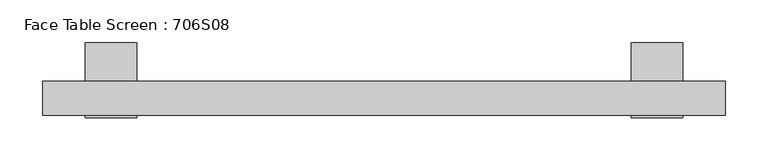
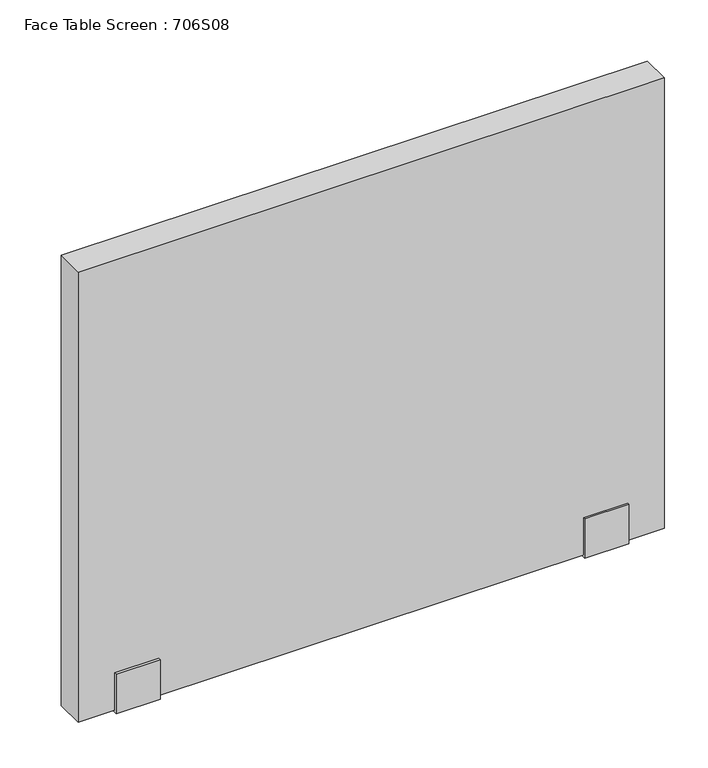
"""IFC4 building model written with IfcOpenShell, lengths in millimetres: furniture geometry, Face Table Screen : 706S08."""

from ifc_helpers import new_model, si_unit, frame, origin, place, context, project, spatial, polyline, outline, extrude, source, transform, mapped, element, save


def face_table_screen_706s08_1f6d369a(model_context):
    return source(origin(), model_context, "Body", "SweptSolid", [
        extrude(outline(polyline([(-22.9999947, -156.0), (-22.9999997, -99.0433898), (-20.0, -99.0433898), (-20.0, -153.0), (20.0, -153.0), (20.0, -22.0), (65.0, -22.0), (65.0, -25.0433898), (23.0000062, -25.0433898), (22.9999947, -156.0), (-22.9999947, -156.0)])), frame((290.0, 0.0, 0.0), z_axis=(1.0, 0.0, 0.0), x_axis=(0.0, 1.0, 0.0)), (0.0, 0.0, 1.0), 60.0),
        extrude(outline(polyline([(-22.9999947, -156.0), (-22.9999997, -99.0433898), (-20.0, -99.0433898), (-20.0, -153.0), (20.0, -153.0), (20.0, -22.0), (65.0, -22.0), (65.0, -25.0433898), (23.0000062, -25.0433898), (22.9999947, -156.0), (-22.9999947, -156.0)])), frame((-350.0, 0.0, 0.0), z_axis=(1.0, 0.0, 0.0), x_axis=(0.0, 1.0, 0.0)), (0.0, 0.0, 1.0), 60.0),
        extrude(outline(polyline([(400.0, -20.0), (-400.0, -20.0), (-400.0, 20.0), (400.0, 20.0), (400.0, -20.0)])), frame((0.0, 0.0, -153.0), z_axis=(0.0, 0.0, 1.0), x_axis=(1.0, 0.0, 0.0)), (0.0, 0.0, 1.0), 650.0),
    ])


if __name__ == "__main__":
    model = new_model("IFC4")
    model_context = context("Model", 3, world=origin())
    ifc_project = project(units=[si_unit("LENGTHUNIT", "METRE", prefix="MILLI")], contexts=[model_context])
    site = spatial("IfcSite", under=ifc_project)
    building = spatial("IfcBuilding", under=site)
    placement = place(None, origin())
    face_table_screen_706s08_shape = face_table_screen_706s08_1f6d369a(model_context)
    element("IfcFurniture", 1, ObjectType="Face Table Screen : 706S08", at=placement, inside=building, context=model_context, shape_type="MappedRepresentation", body=[
        mapped(face_table_screen_706s08_shape, transform((0.0, 0.0, 0.0), x_axis=(1.0, 0.0, 0.0), y_axis=(0.0, 1.0, 0.0), z_axis=(0.0, 0.0, 1.0))),
    ])
    save(model, "model.ifc")
